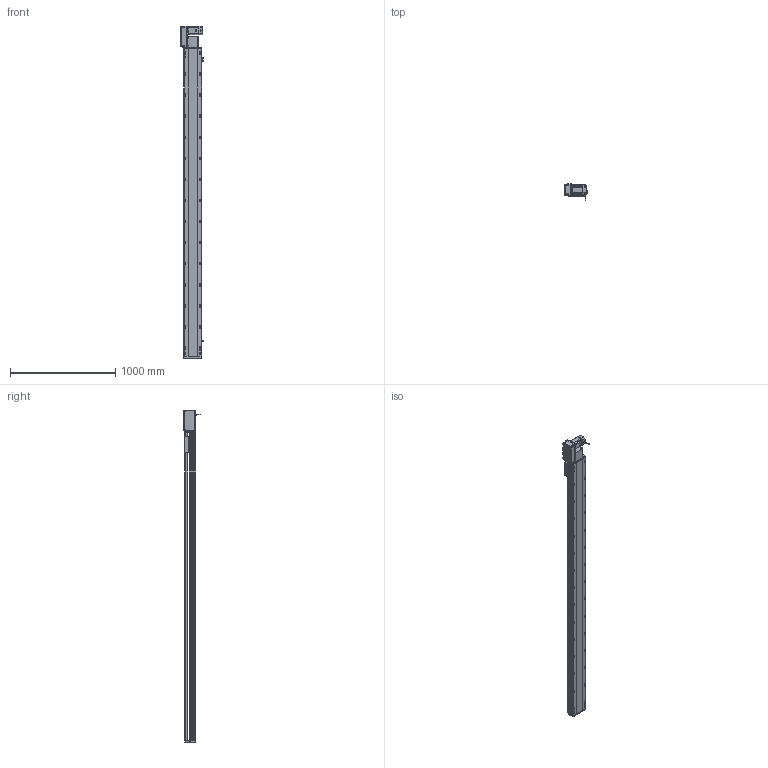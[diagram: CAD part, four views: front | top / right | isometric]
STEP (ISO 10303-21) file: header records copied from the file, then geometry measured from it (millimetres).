
FILE_DESCRIPTION (( 'STEP AP214' ), '1' );
FILE_NAME ('RTB17S-XX-2650-L-M75-C4.STEP', '2025-12-12T00:22:35', ( '' ), ( '' ), 'SwSTEP 2.0', 'SolidWorks 2018', '' );
FILE_SCHEMA (( 'AUTOMOTIVE_DESIGN' ));
Length unit declared in the file: millimetre
Products named in the file (15): RTB22S-GY-008-M75--萇儂啣^RTB17S-L-々湍釱蚾饜-750W_RTB17S-XX-XX-L-M75-C4; 750W萇儂^RTB17S-XX-XX-L-M75-C4; RTB17S-L-007奻裔^RTB17S-XX-XX-L-M75-C4; RTB22S-GY-018P^RTB17S-L-々湍釱蚾饜-750W_RTB17S-XX-XX-L-M75-C4; RTB22S-GY-005P^RTB17S-L-々湍釱蚾饜-750W_RTB17S-XX-XX-L-M75-C4; RTB17S-L-々湍釱蚾饜-750W^RTB17S-XX-XX-L-M75-C4; RTB17-R-011菁釱^RTB17S-XX-XX-L-M75-C4; RTH13-BL-012覜茼え俋离^RTB17S-賑釱_RTB17S-XX-XX-L-M75-C4; RTB17S-L-004-賑釱^RTB17S-賑釱_RTB17S-XX-XX-L-M75-C4; RTB17S-L-001-耜醱啣^RTB17S-XX-XX-L-M75-C4; EE672^RTB17S-XX-XX-L-M75-C4; RTB22S-GY-017P^RTB17S-L-々湍釱蚾饜-750W_RTB17S-XX-XX-L-M75-C4; RTB17S-XX-2650-L-M75-C4; RTB17S-賑釱^RTB17S-XX-XX-L-M75-C4; RMP17S-L-014-T20-P75--々湍釱^RTB17S-L-々湍釱蚾饜-750W_RTB17S-XX-XX-L-M75-C4
Assembly tree (17 placements, depth 3):
  RTB17S-XX-2650-L-M75-C4
    RTB17-R-011菁釱^RTB17S-XX-XX-L-M75-C4
    EE672^RTB17S-XX-XX-L-M75-C4  x3
    RTB17S-L-001-耜醱啣^RTB17S-XX-XX-L-M75-C4
    RTB17S-賑釱^RTB17S-XX-XX-L-M75-C4
      RTB17S-L-004-賑釱^RTB17S-賑釱_RTB17S-XX-XX-L-M75-C4
      RTH13-BL-012覜茼え俋离^RTB17S-賑釱_RTB17S-XX-XX-L-M75-C4
    RTB17S-L-007奻裔^RTB17S-XX-XX-L-M75-C4
    750W萇儂^RTB17S-XX-XX-L-M75-C4
    RTB17S-L-々湍釱蚾饜-750W^RTB17S-XX-XX-L-M75-C4
      RMP17S-L-014-T20-P75--々湍釱^RTB17S-L-々湍釱蚾饜-750W_RTB17S-XX-XX-L-M75-C4
      RTB22S-GY-005P^RTB17S-L-々湍釱蚾饜-750W_RTB17S-XX-XX-L-M75-C4
      RTB22S-GY-017P^RTB17S-L-々湍釱蚾饜-750W_RTB17S-XX-XX-L-M75-C4  x2
      RTB22S-GY-008-M75--萇儂啣^RTB17S-L-々湍釱蚾饜-750W_RTB17S-XX-XX-L-M75-C4
      RTB22S-GY-018P^RTB17S-L-々湍釱蚾饜-750W_RTB17S-XX-XX-L-M75-C4
Bounding box: 210.4 x 152.7 x 3149 mm (x, y, z)
Volume: 22510308.9 mm3; surface area: 4099460.9 mm2
Topology: 17 solids, 17 shells, 2233 faces, 6268 edges, 4058 vertices
Faces by surface type: plane 988, cylinder 829, bspline 294, cone 110, sphere 8, torus 4
Entity records: 65014 total; most frequent: CARTESIAN_POINT 19332, ORIENTED_EDGE 9380, DIRECTION 8672, EDGE_CURVE 4690, AXIS2_PLACEMENT_3D 3078, VERTEX_POINT 3062, LINE 2516, VECTOR 2516
